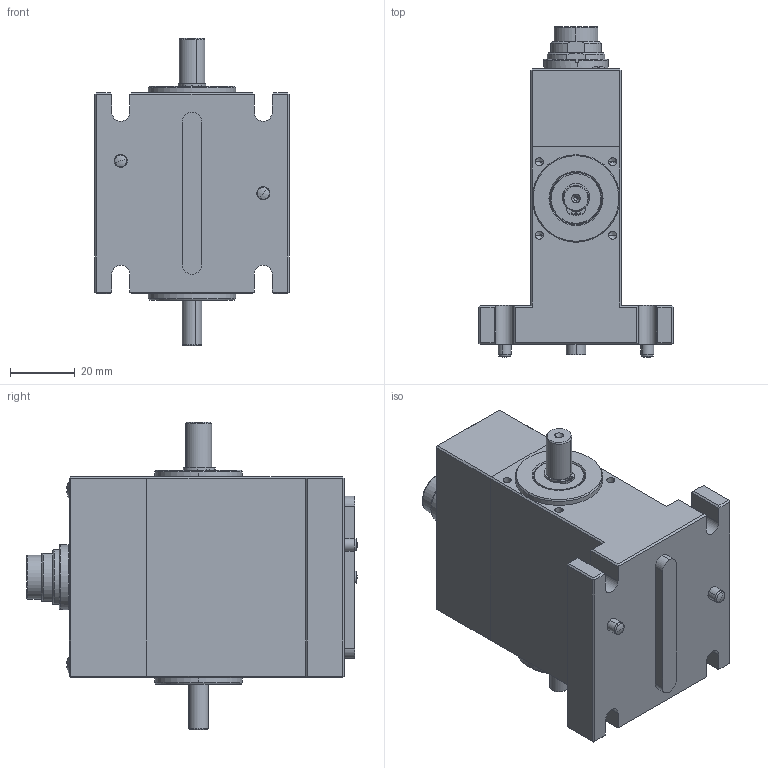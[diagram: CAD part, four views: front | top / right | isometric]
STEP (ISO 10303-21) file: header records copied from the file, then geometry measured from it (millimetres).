
FILE_DESCRIPTION (( 'STEP AP214' ), '1' );
FILE_NAME ('DRVL-I-2-F.STEP', '2022-04-11T07:35:01', ( '' ), ( '' ), 'SwSTEP 2.0', 'SolidWorks 2022', '' );
FILE_SCHEMA (( 'AUTOMOTIVE_DESIGN' ));
Length unit declared in the file: millimetre
Products named in the file (1): DRVL-I-2-F
Bounding box: 60 x 102.1 x 95 mm (x, y, z)
Volume: 122485.5 mm3; surface area: 48780.3 mm2
Topology: 28 solids, 44 shells, 1006 faces, 2513 edges, 1574 vertices
Faces by surface type: cylinder 339, plane 293, cone 166, torus 114, sphere 90, bspline 4
Entity records: 41017 total; most frequent: CARTESIAN_POINT 6058, DIRECTION 5313, ORIENTED_EDGE 4626, EDGE_CURVE 2313, AXIS2_PLACEMENT_3D 2200, VERTEX_POINT 1478, CIRCLE 1197, EDGE_LOOP 1155
